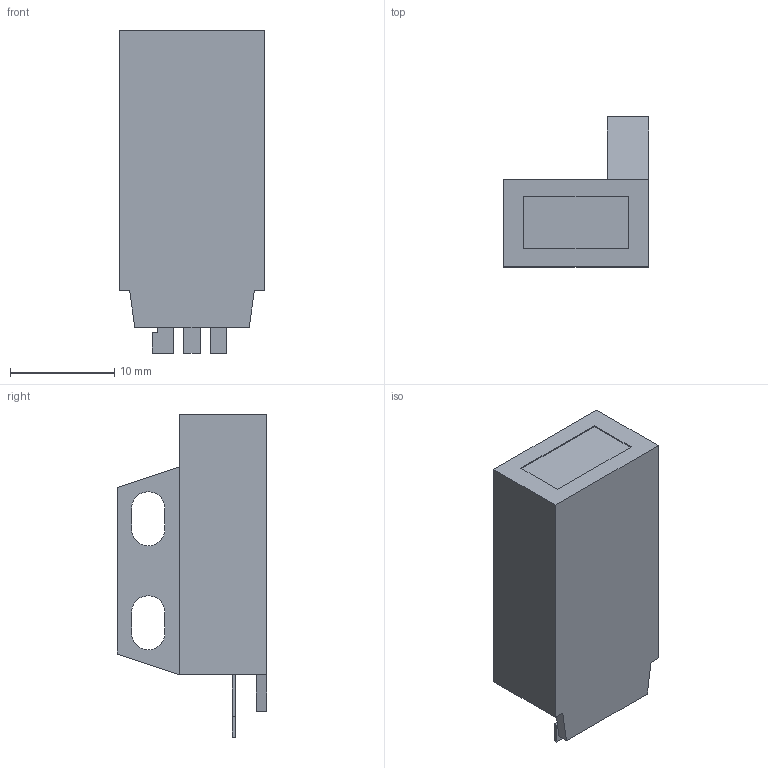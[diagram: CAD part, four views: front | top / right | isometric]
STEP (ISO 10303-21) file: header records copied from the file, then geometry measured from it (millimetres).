
FILE_DESCRIPTION (( 'STEP AP203' ), '1' );
FILE_NAME ('PM2-LL10.STEP', '2005-09-06T01:54:05', ( '' ), ( '' ), 'SwSTEP 2.0', 'SolidWorks 2004073', '' );
FILE_SCHEMA (( 'CONFIG_CONTROL_DESIGN' ));
Length unit declared in the file: millimetre
Products named in the file (1): PM2-LL10
Bounding box: 14 x 14.4 x 31 mm (x, y, z)
Volume: 3299.9 mm3; surface area: 1821.7 mm2
Topology: 1 solids, 1 shells, 49 faces, 125 edges, 83 vertices
Faces by surface type: plane 41, cylinder 8
Entity records: 1552 total; most frequent: CARTESIAN_POINT 258, ORIENTED_EDGE 250, DIRECTION 241, EDGE_CURVE 125, VECTOR 109, LINE 109, VERTEX_POINT 83, AXIS2_PLACEMENT_3D 66
